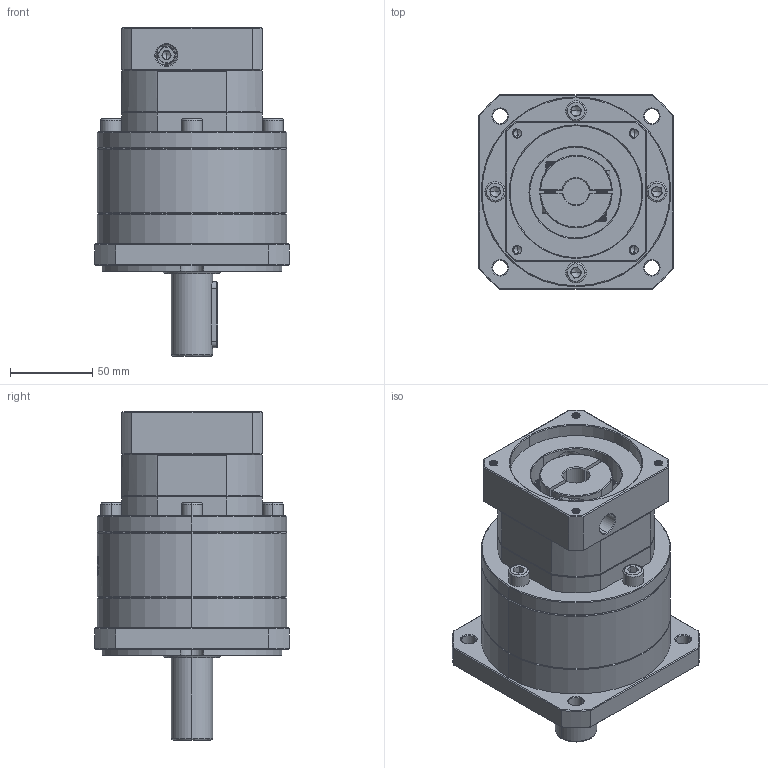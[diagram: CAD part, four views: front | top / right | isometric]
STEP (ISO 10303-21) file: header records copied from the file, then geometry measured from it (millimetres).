
FILE_DESCRIPTION (( 'STEP AP214' ), '1' );
FILE_NAME ('ZF120A-D25-L2-P2-16-80-100-M6.step', '2023-08-27T05:57:21', ( '' ), ( '' ), 'SwSTEP 2.0', 'SolidWorks 2016', '' );
FILE_SCHEMA (( 'AUTOMOTIVE_DESIGN' ));
Length unit declared in the file: millimetre
Products named in the file (1): ZF120A-D25-L2-P2-16-80-100-M6
Bounding box: 118 x 118 x 199 mm (x, y, z)
Volume: 1267347.3 mm3; surface area: 127705.6 mm2
Topology: 5 solids, 6 shells, 2211 faces, 5870 edges, 3758 vertices
Faces by surface type: plane 1064, bspline 419, cylinder 402, cone 311, torus 15
Entity records: 120940 total; most frequent: CARTESIAN_POINT 47189, ORIENTED_EDGE 11680, DIRECTION 8409, EDGE_CURVE 5840, VERTEX_POINT 3758, LINE 3097, VECTOR 3097, AXIS2_PLACEMENT_3D 2656
